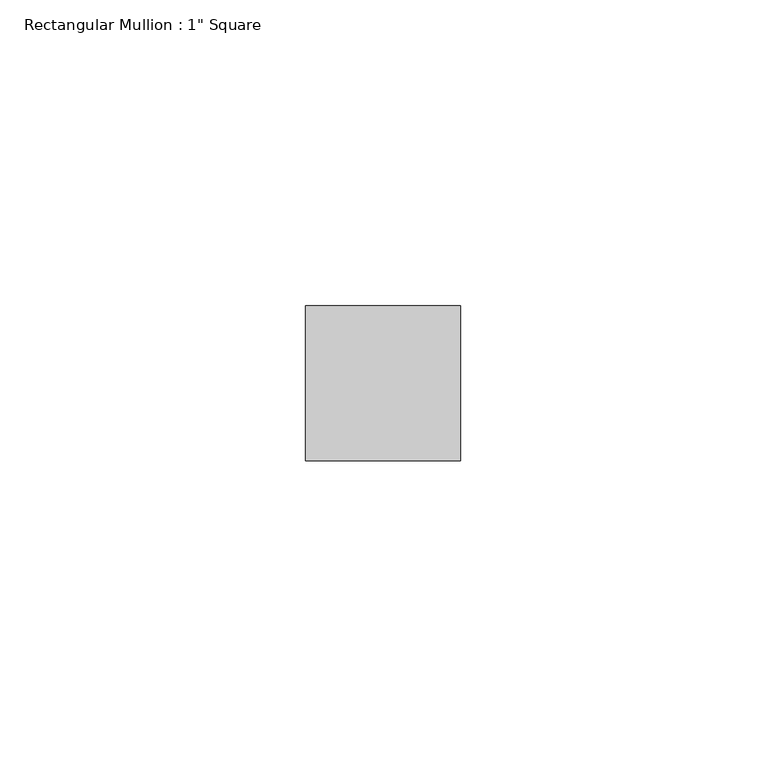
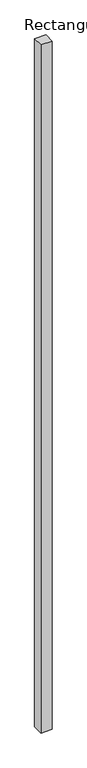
"""IFC4 building model written with IfcOpenShell, lengths in millimetres: member geometry."""

from ifc_helpers import new_model, si_unit, frame, origin, place, context, project, spatial, polyline, outline, extrude, source, transform, mapped, element, save


def member_79ecd0d7(model_context):
    return source(origin(), model_context, "Body", "SweptSolid", [
        extrude(outline(polyline([(12.7, 12.7), (12.7, -12.7), (-12.7, -12.7), (-12.7, 12.7), (12.7, 12.7)])), frame((0.0, 0.0, -1664.2185591), z_axis=(0.0, 0.0, 1.0), x_axis=(1.0, 0.0, 0.0)), (0.0, 0.0, 1.0), 1664.2185591),
    ])


if __name__ == "__main__":
    model = new_model("IFC4")
    model_context = context("Model", 3, world=origin())
    ifc_project = project(units=[si_unit("LENGTHUNIT", "METRE", prefix="MILLI")], contexts=[model_context])
    site = spatial("IfcSite", under=ifc_project)
    building = spatial("IfcBuilding", under=site)
    placement = place(None, origin())
    member_shape = member_79ecd0d7(model_context)
    element("IfcMember", 1, ObjectType="Rectangular Mullion : 1\" Square", at=placement, inside=building, context=model_context, shape_type="MappedRepresentation", body=[
        mapped(member_shape, transform((0.0, 0.0, 0.0), x_axis=(1.0, 0.0, 0.0), y_axis=(0.0, 1.0, 0.0), z_axis=(0.0, 0.0, 1.0))),
    ])
    save(model, "model.ifc")
